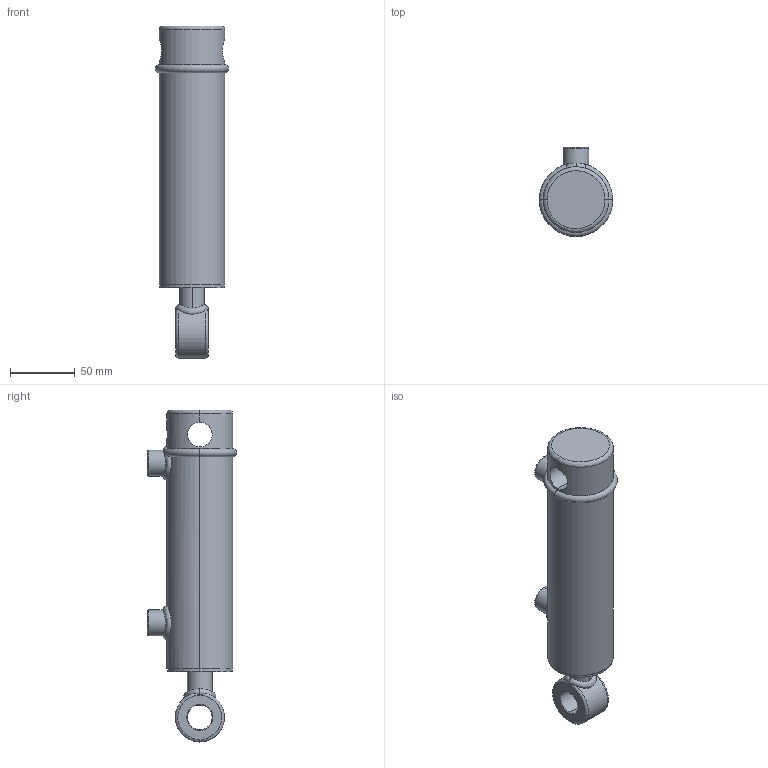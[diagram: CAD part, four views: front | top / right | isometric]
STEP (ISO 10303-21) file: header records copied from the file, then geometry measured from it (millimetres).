
FILE_DESCRIPTION (( 'STEP AP203' ), '1' );
FILE_NAME ('SB-C150075X102 (4).STEP', '2014-12-18T17:24:09', ( '' ), ( '' ), 'SwSTEP 2.0', 'SolidWorks 2015', '' );
FILE_SCHEMA (( 'CONFIG_CONTROL_DESIGN' ));
Length unit declared in the file: millimetre
Products named in the file (3): BODY_4; SPARE_4; SB-C150075X102 (4)
Assembly tree (2 placements, depth 2):
  SB-C150075X102 (4)
    BODY_4
    SPARE_4
Bounding box: 56.7 x 68.75 x 256 mm (x, y, z)
Volume: 435616.2 mm3; surface area: 65190.2 mm2
Topology: 2 solids, 2 shells, 90 faces, 211 edges, 127 vertices
Faces by surface type: cylinder 32, torus 20, bspline 17, plane 13, cone 8
Entity records: 8172 total; most frequent: CARTESIAN_POINT 5968, ORIENTED_EDGE 414, DIRECTION 380, EDGE_CURVE 207, AXIS2_PLACEMENT_3D 169, VERTEX_POINT 127, EDGE_LOOP 104, CIRCLE 91
